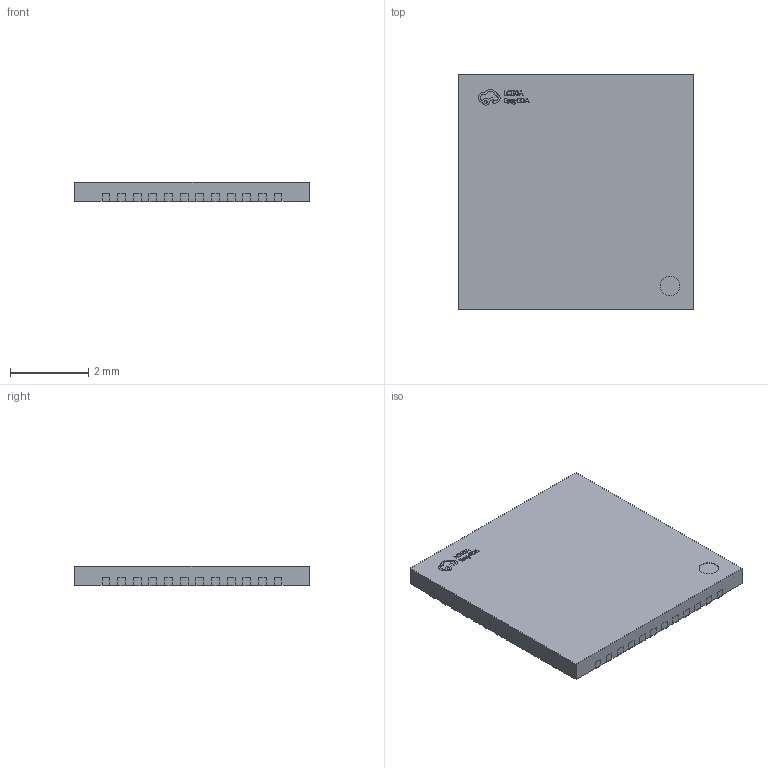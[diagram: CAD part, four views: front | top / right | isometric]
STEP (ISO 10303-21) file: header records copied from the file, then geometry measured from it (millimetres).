
FILE_DESCRIPTION (( 'STEP AP214' ), '1' );
FILE_NAME ('UQFN-48_L6.0-W6.0-H0.5-P0.40-BL-EP4.6.step', '2022-07-15T04:02:40', ( '' ), ( '' ), 'SwSTEP 2.0', 'SolidWorks 2020', '' );
FILE_SCHEMA (( 'AUTOMOTIVE_DESIGN' ));
Length unit declared in the file: millimetre
Products named in the file (1): UQFN-48_L6.0-W6.0-H0.5-P0.40-BL-EP4.6
Bounding box: 6 x 6 x 0.5 mm (x, y, z)
Surface area: 161.1 mm2
Topology: 111 solids, 111 shells, 1362 faces, 3396 edges, 2264 vertices
Faces by surface type: plane 960, cylinder 290, bspline 112
Entity records: 56955 total; most frequent: CARTESIAN_POINT 9127, ORIENTED_EDGE 6792, DIRECTION 6250, EDGE_CURVE 3396, LINE 2588, VECTOR 2588, VERTEX_POINT 2264, AXIS2_PLACEMENT_3D 1831
